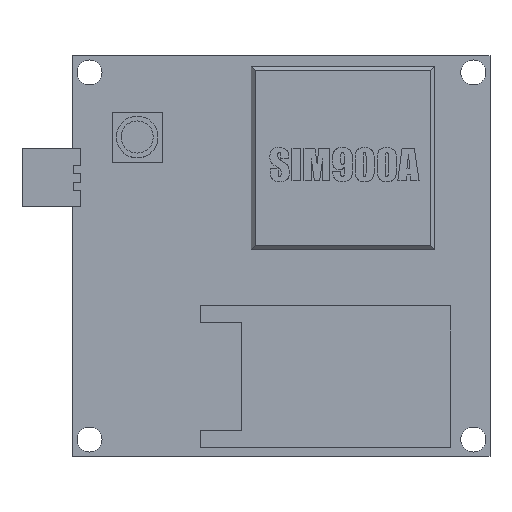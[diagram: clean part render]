
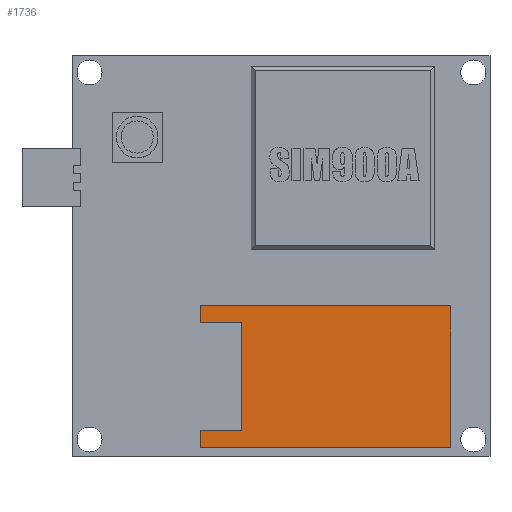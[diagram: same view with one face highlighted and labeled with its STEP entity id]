
A CAD part, top view. The second image highlights one B-rep face of the part: STEP entity #1736.
In plain terms, the highlighted planar face has unit normal (0, 0, 1).
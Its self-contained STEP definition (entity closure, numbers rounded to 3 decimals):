
#1337 = VERTEX_POINT('',#1338);
#1338 = CARTESIAN_POINT('',(-9.685,5.021,1.));
#1345 = PLANE('',#1346);
#1346 = AXIS2_PLACEMENT_3D('',#1347,#1348,#1349);
#1347 = CARTESIAN_POINT('',(-9.685,5.021,0.));
#1348 = DIRECTION('',(0.,1.,0.));
#1349 = DIRECTION('',(1.,0.,0.));
#1357 = PLANE('',#1358);
#1358 = AXIS2_PLACEMENT_3D('',#1359,#1360,#1361);
#1359 = CARTESIAN_POINT('',(-9.685,-11.979,0.));
#1360 = DIRECTION('',(-1.,0.,0.));
#1361 = DIRECTION('',(0.,1.,0.));
#1369 = EDGE_CURVE('',#1337,#1370,#1372,.T.);
#1370 = VERTEX_POINT('',#1371);
#1371 = CARTESIAN_POINT('',(20.315,5.021,1.));
#1372 = SURFACE_CURVE('',#1373,(#1377,#1384),.PCURVE_S1.);
#1373 = LINE('',#1374,#1375);
#1374 = CARTESIAN_POINT('',(-9.685,5.021,1.));
#1375 = VECTOR('',#1376,1.);
#1376 = DIRECTION('',(1.,0.,0.));
#1377 = PCURVE('',#1345,#1378);
#1378 = DEFINITIONAL_REPRESENTATION('',(#1379),#1383);
#1379 = LINE('',#1380,#1381);
#1380 = CARTESIAN_POINT('',(0.,-1.));
#1381 = VECTOR('',#1382,1.);
#1382 = DIRECTION('',(1.,0.));
#1383 = ( GEOMETRIC_REPRESENTATION_CONTEXT(2) 
PARAMETRIC_REPRESENTATION_CONTEXT() REPRESENTATION_CONTEXT('2D SPACE',''
  ) );
#1384 = PCURVE('',#1385,#1390);
#1385 = PLANE('',#1386);
#1386 = AXIS2_PLACEMENT_3D('',#1387,#1388,#1389);
#1387 = CARTESIAN_POINT('',(5.315,-3.479,1.));
#1388 = DIRECTION('',(-0.,-0.,-1.));
#1389 = DIRECTION('',(-1.,0.,0.));
#1390 = DEFINITIONAL_REPRESENTATION('',(#1391),#1395);
#1391 = LINE('',#1392,#1393);
#1392 = CARTESIAN_POINT('',(15.,8.5));
#1393 = VECTOR('',#1394,1.);
#1394 = DIRECTION('',(-1.,0.));
#1395 = ( GEOMETRIC_REPRESENTATION_CONTEXT(2) 
PARAMETRIC_REPRESENTATION_CONTEXT() REPRESENTATION_CONTEXT('2D SPACE',''
  ) );
#1413 = PLANE('',#1414);
#1414 = AXIS2_PLACEMENT_3D('',#1415,#1416,#1417);
#1415 = CARTESIAN_POINT('',(20.315,5.021,0.));
#1416 = DIRECTION('',(1.,0.,0.));
#1417 = DIRECTION('',(0.,-1.,0.));
#1478 = VERTEX_POINT('',#1479);
#1479 = CARTESIAN_POINT('',(-9.685,3.021,1.));
#1493 = PLANE('',#1494);
#1494 = AXIS2_PLACEMENT_3D('',#1495,#1496,#1497);
#1495 = CARTESIAN_POINT('',(-10.265,3.021,1.));
#1496 = DIRECTION('',(0.,-1.,0.));
#1497 = DIRECTION('',(1.,0.,0.));
#1505 = EDGE_CURVE('',#1478,#1337,#1506,.T.);
#1506 = SURFACE_CURVE('',#1507,(#1511,#1518),.PCURVE_S1.);
#1507 = LINE('',#1508,#1509);
#1508 = CARTESIAN_POINT('',(-9.685,-11.979,1.));
#1509 = VECTOR('',#1510,1.);
#1510 = DIRECTION('',(0.,1.,0.));
#1511 = PCURVE('',#1357,#1512);
#1512 = DEFINITIONAL_REPRESENTATION('',(#1513),#1517);
#1513 = LINE('',#1514,#1515);
#1514 = CARTESIAN_POINT('',(0.,-1.));
#1515 = VECTOR('',#1516,1.);
#1516 = DIRECTION('',(1.,0.));
#1517 = ( GEOMETRIC_REPRESENTATION_CONTEXT(2) 
PARAMETRIC_REPRESENTATION_CONTEXT() REPRESENTATION_CONTEXT('2D SPACE',''
  ) );
#1518 = PCURVE('',#1385,#1519);
#1519 = DEFINITIONAL_REPRESENTATION('',(#1520),#1524);
#1520 = LINE('',#1521,#1522);
#1521 = CARTESIAN_POINT('',(15.,-8.5));
#1522 = VECTOR('',#1523,1.);
#1523 = DIRECTION('',(0.,1.));
#1524 = ( GEOMETRIC_REPRESENTATION_CONTEXT(2) 
PARAMETRIC_REPRESENTATION_CONTEXT() REPRESENTATION_CONTEXT('2D SPACE',''
  ) );
#1531 = EDGE_CURVE('',#1370,#1532,#1534,.T.);
#1532 = VERTEX_POINT('',#1533);
#1533 = CARTESIAN_POINT('',(20.315,-11.979,1.));
#1534 = SURFACE_CURVE('',#1535,(#1539,#1546),.PCURVE_S1.);
#1535 = LINE('',#1536,#1537);
#1536 = CARTESIAN_POINT('',(20.315,5.021,1.));
#1537 = VECTOR('',#1538,1.);
#1538 = DIRECTION('',(0.,-1.,0.));
#1539 = PCURVE('',#1413,#1540);
#1540 = DEFINITIONAL_REPRESENTATION('',(#1541),#1545);
#1541 = LINE('',#1542,#1543);
#1542 = CARTESIAN_POINT('',(0.,-1.));
#1543 = VECTOR('',#1544,1.);
#1544 = DIRECTION('',(1.,0.));
#1545 = ( GEOMETRIC_REPRESENTATION_CONTEXT(2) 
PARAMETRIC_REPRESENTATION_CONTEXT() REPRESENTATION_CONTEXT('2D SPACE',''
  ) );
#1546 = PCURVE('',#1385,#1547);
#1547 = DEFINITIONAL_REPRESENTATION('',(#1548),#1552);
#1548 = LINE('',#1549,#1550);
#1549 = CARTESIAN_POINT('',(-15.,8.5));
#1550 = VECTOR('',#1551,1.);
#1551 = DIRECTION('',(0.,-1.));
#1552 = ( GEOMETRIC_REPRESENTATION_CONTEXT(2) 
PARAMETRIC_REPRESENTATION_CONTEXT() REPRESENTATION_CONTEXT('2D SPACE',''
  ) );
#1570 = PLANE('',#1571);
#1571 = AXIS2_PLACEMENT_3D('',#1572,#1573,#1574);
#1572 = CARTESIAN_POINT('',(20.315,-11.979,0.));
#1573 = DIRECTION('',(0.,-1.,0.));
#1574 = DIRECTION('',(-1.,0.,0.));
#1648 = PLANE('',#1649);
#1649 = AXIS2_PLACEMENT_3D('',#1650,#1651,#1652);
#1650 = CARTESIAN_POINT('',(-9.685,-11.979,0.));
#1651 = DIRECTION('',(-1.,0.,0.));
#1652 = DIRECTION('',(0.,1.,0.));
#1676 = PLANE('',#1677);
#1677 = AXIS2_PLACEMENT_3D('',#1678,#1679,#1680);
#1678 = CARTESIAN_POINT('',(-4.765,-9.979,1.));
#1679 = DIRECTION('',(0.,1.,0.));
#1680 = DIRECTION('',(-1.,0.,0.));
#1704 = PLANE('',#1705);
#1705 = AXIS2_PLACEMENT_3D('',#1706,#1707,#1708);
#1706 = CARTESIAN_POINT('',(-4.765,3.021,1.));
#1707 = DIRECTION('',(-1.,0.,0.));
#1708 = DIRECTION('',(0.,-1.,0.));
#1736 = ADVANCED_FACE('',(#1737),#1385,.F.);
#1737 = FACE_BOUND('',#1738,.F.);
#1738 = EDGE_LOOP('',(#1739,#1740,#1741,#1742,#1765,#1788,#1811,#1834));
#1739 = ORIENTED_EDGE('',*,*,#1505,.T.);
#1740 = ORIENTED_EDGE('',*,*,#1369,.T.);
#1741 = ORIENTED_EDGE('',*,*,#1531,.T.);
#1742 = ORIENTED_EDGE('',*,*,#1743,.T.);
#1743 = EDGE_CURVE('',#1532,#1744,#1746,.T.);
#1744 = VERTEX_POINT('',#1745);
#1745 = CARTESIAN_POINT('',(-9.685,-11.979,1.));
#1746 = SURFACE_CURVE('',#1747,(#1751,#1758),.PCURVE_S1.);
#1747 = LINE('',#1748,#1749);
#1748 = CARTESIAN_POINT('',(20.315,-11.979,1.));
#1749 = VECTOR('',#1750,1.);
#1750 = DIRECTION('',(-1.,0.,0.));
#1751 = PCURVE('',#1385,#1752);
#1752 = DEFINITIONAL_REPRESENTATION('',(#1753),#1757);
#1753 = LINE('',#1754,#1755);
#1754 = CARTESIAN_POINT('',(-15.,-8.5));
#1755 = VECTOR('',#1756,1.);
#1756 = DIRECTION('',(1.,0.));
#1757 = ( GEOMETRIC_REPRESENTATION_CONTEXT(2) 
PARAMETRIC_REPRESENTATION_CONTEXT() REPRESENTATION_CONTEXT('2D SPACE',''
  ) );
#1758 = PCURVE('',#1570,#1759);
#1759 = DEFINITIONAL_REPRESENTATION('',(#1760),#1764);
#1760 = LINE('',#1761,#1762);
#1761 = CARTESIAN_POINT('',(0.,-1.));
#1762 = VECTOR('',#1763,1.);
#1763 = DIRECTION('',(1.,0.));
#1764 = ( GEOMETRIC_REPRESENTATION_CONTEXT(2) 
PARAMETRIC_REPRESENTATION_CONTEXT() REPRESENTATION_CONTEXT('2D SPACE',''
  ) );
#1765 = ORIENTED_EDGE('',*,*,#1766,.T.);
#1766 = EDGE_CURVE('',#1744,#1767,#1769,.T.);
#1767 = VERTEX_POINT('',#1768);
#1768 = CARTESIAN_POINT('',(-9.685,-9.979,1.));
#1769 = SURFACE_CURVE('',#1770,(#1774,#1781),.PCURVE_S1.);
#1770 = LINE('',#1771,#1772);
#1771 = CARTESIAN_POINT('',(-9.685,-11.979,1.));
#1772 = VECTOR('',#1773,1.);
#1773 = DIRECTION('',(0.,1.,0.));
#1774 = PCURVE('',#1385,#1775);
#1775 = DEFINITIONAL_REPRESENTATION('',(#1776),#1780);
#1776 = LINE('',#1777,#1778);
#1777 = CARTESIAN_POINT('',(15.,-8.5));
#1778 = VECTOR('',#1779,1.);
#1779 = DIRECTION('',(0.,1.));
#1780 = ( GEOMETRIC_REPRESENTATION_CONTEXT(2) 
PARAMETRIC_REPRESENTATION_CONTEXT() REPRESENTATION_CONTEXT('2D SPACE',''
  ) );
#1781 = PCURVE('',#1648,#1782);
#1782 = DEFINITIONAL_REPRESENTATION('',(#1783),#1787);
#1783 = LINE('',#1784,#1785);
#1784 = CARTESIAN_POINT('',(0.,-1.));
#1785 = VECTOR('',#1786,1.);
#1786 = DIRECTION('',(1.,0.));
#1787 = ( GEOMETRIC_REPRESENTATION_CONTEXT(2) 
PARAMETRIC_REPRESENTATION_CONTEXT() REPRESENTATION_CONTEXT('2D SPACE',''
  ) );
#1788 = ORIENTED_EDGE('',*,*,#1789,.F.);
#1789 = EDGE_CURVE('',#1790,#1767,#1792,.T.);
#1790 = VERTEX_POINT('',#1791);
#1791 = CARTESIAN_POINT('',(-4.765,-9.979,1.));
#1792 = SURFACE_CURVE('',#1793,(#1797,#1804),.PCURVE_S1.);
#1793 = LINE('',#1794,#1795);
#1794 = CARTESIAN_POINT('',(-4.765,-9.979,1.));
#1795 = VECTOR('',#1796,1.);
#1796 = DIRECTION('',(-1.,0.,0.));
#1797 = PCURVE('',#1385,#1798);
#1798 = DEFINITIONAL_REPRESENTATION('',(#1799),#1803);
#1799 = LINE('',#1800,#1801);
#1800 = CARTESIAN_POINT('',(10.08,-6.5));
#1801 = VECTOR('',#1802,1.);
#1802 = DIRECTION('',(1.,0.));
#1803 = ( GEOMETRIC_REPRESENTATION_CONTEXT(2) 
PARAMETRIC_REPRESENTATION_CONTEXT() REPRESENTATION_CONTEXT('2D SPACE',''
  ) );
#1804 = PCURVE('',#1676,#1805);
#1805 = DEFINITIONAL_REPRESENTATION('',(#1806),#1810);
#1806 = LINE('',#1807,#1808);
#1807 = CARTESIAN_POINT('',(0.,0.));
#1808 = VECTOR('',#1809,1.);
#1809 = DIRECTION('',(1.,0.));
#1810 = ( GEOMETRIC_REPRESENTATION_CONTEXT(2) 
PARAMETRIC_REPRESENTATION_CONTEXT() REPRESENTATION_CONTEXT('2D SPACE',''
  ) );
#1811 = ORIENTED_EDGE('',*,*,#1812,.F.);
#1812 = EDGE_CURVE('',#1813,#1790,#1815,.T.);
#1813 = VERTEX_POINT('',#1814);
#1814 = CARTESIAN_POINT('',(-4.765,3.021,1.));
#1815 = SURFACE_CURVE('',#1816,(#1820,#1827),.PCURVE_S1.);
#1816 = LINE('',#1817,#1818);
#1817 = CARTESIAN_POINT('',(-4.765,3.021,1.));
#1818 = VECTOR('',#1819,1.);
#1819 = DIRECTION('',(0.,-1.,0.));
#1820 = PCURVE('',#1385,#1821);
#1821 = DEFINITIONAL_REPRESENTATION('',(#1822),#1826);
#1822 = LINE('',#1823,#1824);
#1823 = CARTESIAN_POINT('',(10.08,6.5));
#1824 = VECTOR('',#1825,1.);
#1825 = DIRECTION('',(0.,-1.));
#1826 = ( GEOMETRIC_REPRESENTATION_CONTEXT(2) 
PARAMETRIC_REPRESENTATION_CONTEXT() REPRESENTATION_CONTEXT('2D SPACE',''
  ) );
#1827 = PCURVE('',#1704,#1828);
#1828 = DEFINITIONAL_REPRESENTATION('',(#1829),#1833);
#1829 = LINE('',#1830,#1831);
#1830 = CARTESIAN_POINT('',(0.,0.));
#1831 = VECTOR('',#1832,1.);
#1832 = DIRECTION('',(1.,0.));
#1833 = ( GEOMETRIC_REPRESENTATION_CONTEXT(2) 
PARAMETRIC_REPRESENTATION_CONTEXT() REPRESENTATION_CONTEXT('2D SPACE',''
  ) );
#1834 = ORIENTED_EDGE('',*,*,#1835,.F.);
#1835 = EDGE_CURVE('',#1478,#1813,#1836,.T.);
#1836 = SURFACE_CURVE('',#1837,(#1841,#1848),.PCURVE_S1.);
#1837 = LINE('',#1838,#1839);
#1838 = CARTESIAN_POINT('',(-10.265,3.021,1.));
#1839 = VECTOR('',#1840,1.);
#1840 = DIRECTION('',(1.,0.,0.));
#1841 = PCURVE('',#1385,#1842);
#1842 = DEFINITIONAL_REPRESENTATION('',(#1843),#1847);
#1843 = LINE('',#1844,#1845);
#1844 = CARTESIAN_POINT('',(15.58,6.5));
#1845 = VECTOR('',#1846,1.);
#1846 = DIRECTION('',(-1.,0.));
#1847 = ( GEOMETRIC_REPRESENTATION_CONTEXT(2) 
PARAMETRIC_REPRESENTATION_CONTEXT() REPRESENTATION_CONTEXT('2D SPACE',''
  ) );
#1848 = PCURVE('',#1493,#1849);
#1849 = DEFINITIONAL_REPRESENTATION('',(#1850),#1854);
#1850 = LINE('',#1851,#1852);
#1851 = CARTESIAN_POINT('',(0.,0.));
#1852 = VECTOR('',#1853,1.);
#1853 = DIRECTION('',(1.,0.));
#1854 = ( GEOMETRIC_REPRESENTATION_CONTEXT(2) 
PARAMETRIC_REPRESENTATION_CONTEXT() REPRESENTATION_CONTEXT('2D SPACE',''
  ) );
